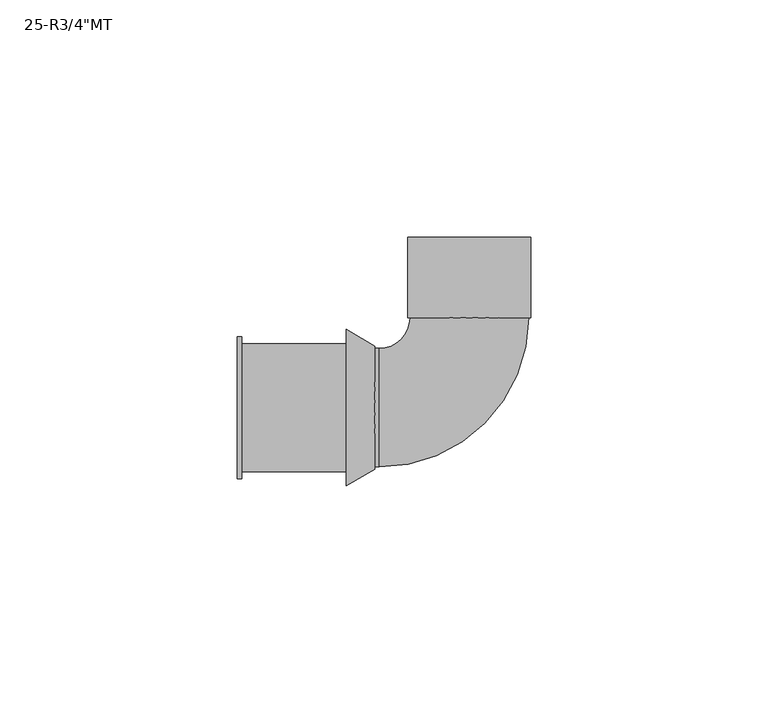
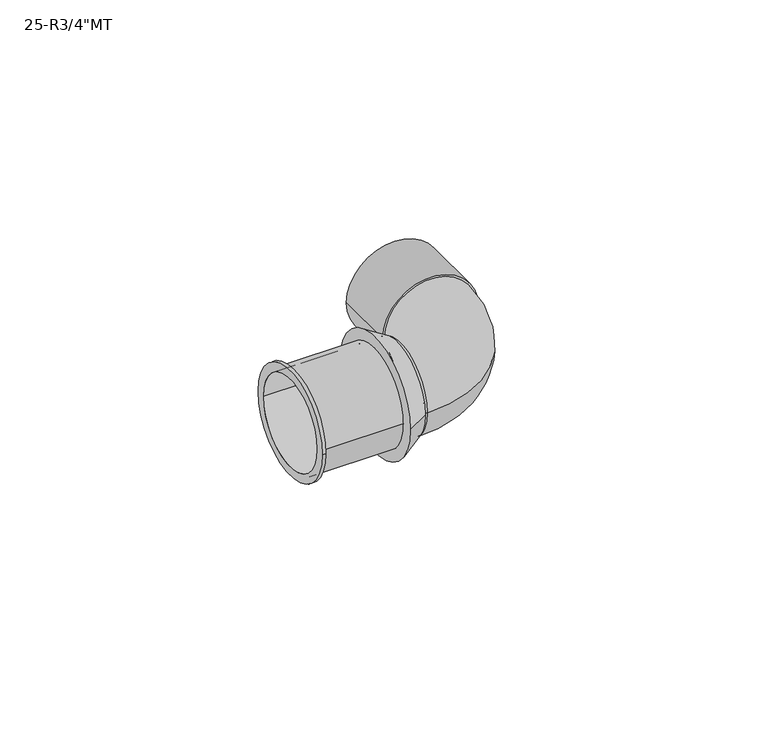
"""IFC4 building model written with IfcOpenShell, lengths in millimetres: pipe fitting geometry."""

from ifc_helpers import new_model, si_unit, point, frame, origin, origin_2d, place, context, project, spatial, polyline, circle_curve, ellipse_curve, trimmed, segment, composite_curve, outline, extrude, source, transform, mapped, element, save
from ifc_brep_helpers import plane_surface, cylinder_surface, revolved_surface, advanced_brep


def pipe_fitting_828af438(model_context):
    return source(origin(), model_context, "Body", "SolidModel", [
        advanced_brep(
        [(12.5, 19.0, 0.0), (-12.5, 19.0, 0.0), (-19.0, 12.5, 0.0), (-19.0, -12.5, 0.0), (-20.0, -12.5, 0.0), (-20.0, 12.5, 0.0)],
        [
            (0, 1, circle_curve(frame((0.0, 19.0, 0.0), z_axis=(0.0, 1.0, 0.0), x_axis=(-1.0, 0.0, 0.0)), 12.5)),
            (1, 0, circle_curve(frame((0.0, 19.0, 0.0), z_axis=(0.0, 1.0, 0.0), x_axis=(-1.0, 0.0, 0.0)), 12.5)),
            (1, 2, circle_curve(frame((-19.0, 19.0, 0.0), z_axis=(0.0, 0.0, -1.0), x_axis=(0.0, -1.0, 0.0)), 6.5)),
            (2, 3, circle_curve(frame((-19.0, 0.0, 0.0), z_axis=(1.0, 0.0, 0.0), x_axis=(0.0, 1.0, 0.0)), 12.5)),
            (3, 0, circle_curve(frame((-19.0, 19.0, 0.0), z_axis=(0.0, 0.0, 1.0), x_axis=(0.0, -1.0, 0.0)), 31.5)),
            (3, 2, circle_curve(frame((-19.0, 0.0, 0.0), z_axis=(1.0, 0.0, 0.0), x_axis=(0.0, 1.0, 0.0)), 12.5)),
            (4, 5, circle_curve(frame((-20.0, 0.0, 0.0), z_axis=(-1.0, 0.0, 0.0), x_axis=(0.0, 1.0, 0.0)), 12.5)),
            (5, 4, circle_curve(frame((-20.0, 0.0, 0.0), z_axis=(-1.0, 0.0, 0.0), x_axis=(0.0, 1.0, 0.0)), 12.5)),
            (4, 3),
            (2, 5),
        ],
        [
            plane_surface(frame((0.0, 19.0, 0.0), z_axis=(0.0, 1.0, 0.0), x_axis=(0.0, 0.0, 1.0))),
            revolved_surface(trimmed(ellipse_curve(frame((-19.0, 0.0, 0.0), z_axis=(-1.0, 0.0, 0.0), x_axis=(0.0, 1.0, 0.0)), 12.5, 12.5), [point((-19.0, -12.5, 0.0))], [point((-19.0, 12.5, 0.0))], True, "CARTESIAN"), (-19.0, 19.0, 0.0), (0.0, 0.0, 1.0)),
            revolved_surface(trimmed(ellipse_curve(frame((-19.0, 0.0, 0.0), z_axis=(-1.0, 0.0, 0.0), x_axis=(0.0, 1.0, 0.0)), 12.5, 12.5), [point((-19.0, 12.5, 0.0))], [point((-19.0, -12.5, 0.0))], True, "CARTESIAN"), (-19.0, 19.0, 0.0), (0.0, 0.0, 1.0)),
            plane_surface(frame((-20.0, 0.0, 0.0), z_axis=(-1.0, 0.0, 0.0), x_axis=(0.0, 0.0, 1.0))),
            cylinder_surface(frame((-20.0, 0.0, 0.0), z_axis=(-1.0, 0.0, 0.0), x_axis=(0.0, 1.0, 0.0)), 12.5),
        ],
        [
            (0, [[1, 2]]),
            (1, [[-2, 3, 4, 5]]),
            (2, [[-1, -5, 6, -3]]),
            (3, [[7, 8]]),
            (4, [[-7, 9, -4, 10]]),
            (4, [[-8, -10, -6, -9]]),
        ],
    ),
        extrude(outline(composite_curve([segment(trimmed(circle_curve(origin_2d(), 13.0), [point((0.0, -13.0))], [point((0.0, 13.0))], False, "CARTESIAN"), True, "CONTINUOUS"), segment(trimmed(circle_curve(origin_2d(), 13.0), [point((0.0, 13.0))], [point((0.0, -13.0))], False, "CARTESIAN"), True, "CONTINUOUS")], self_intersect=False), holes=[composite_curve([segment(trimmed(circle_curve(origin_2d(), 10.0), [point((0.0, -10.0))], [point((0.0, 10.0))], True, "CARTESIAN"), True, "CONTINUOUS"), segment(trimmed(circle_curve(origin_2d(), 10.0), [point((0.0, 10.0))], [point((0.0, -10.0))], True, "CARTESIAN"), True, "CONTINUOUS")], self_intersect=False)]), frame((0.0, 19.0, 0.0), z_axis=(0.0, 1.0, 0.0), x_axis=(0.0, 0.0, 1.0)), (0.0, 0.0, 1.0), 17.0),
        advanced_brep(
        [(-20.0, -13.0, 0.0), (-20.0, 13.0, 0.0), (-20.0, 12.5, 0.0), (-20.0, -12.5, 0.0), (-26.0, -16.5, 0.0), (-26.0, 16.5, 0.0), (-26.0, -12.5, 0.0), (-26.0, 12.5, 0.0)],
        [
            (0, 1, circle_curve(frame((-20.0, 0.0, 0.0), z_axis=(1.0, 0.0, 0.0), x_axis=(0.0, -1.0, 0.0)), 13.0)),
            (1, 0, circle_curve(frame((-20.0, 0.0, 0.0), z_axis=(1.0, 0.0, 0.0), x_axis=(0.0, 1.0, 0.0)), 13.0)),
            (2, 3, circle_curve(frame((-20.0, 0.0, 0.0), z_axis=(-1.0, 0.0, 0.0), x_axis=(0.0, 1.0, 0.0)), 12.5)),
            (3, 2, circle_curve(frame((-20.0, 0.0, 0.0), z_axis=(-1.0, 0.0, 0.0), x_axis=(0.0, 1.0, 0.0)), 12.5)),
            (4, 5, circle_curve(frame((-26.0, 0.0, 0.0), z_axis=(-1.0, 0.0, 0.0), x_axis=(0.0, 1.0, 0.0)), 16.5)),
            (5, 4, circle_curve(frame((-26.0, 0.0, 0.0), z_axis=(-1.0, 0.0, 0.0), x_axis=(0.0, -1.0, 0.0)), 16.5)),
            (6, 7, circle_curve(frame((-26.0, 0.0, 0.0), z_axis=(1.0, 0.0, 0.0), x_axis=(0.0, 1.0, 0.0)), 12.5)),
            (7, 6, circle_curve(frame((-26.0, 0.0, 0.0), z_axis=(1.0, 0.0, 0.0), x_axis=(0.0, 1.0, 0.0)), 12.5)),
            (0, 4),
            (5, 1),
            (2, 7),
            (6, 3),
        ],
        [
            plane_surface(frame((-20.0, 0.0, 0.0), z_axis=(1.0, 0.0, 0.0), x_axis=(0.0, 0.0, -1.0))),
            plane_surface(frame((-26.0, 0.0, 0.0), z_axis=(-1.0, 0.0, 0.0), x_axis=(0.0, 0.0, -1.0))),
            revolved_surface(polyline([(-20.0, -13.000000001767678, 0.0), (-26.0, -16.5, 0.0)]), (2.2857143, 0.0, 0.0), (-1.0, 0.0, 0.0)),
            revolved_surface(polyline([(-20.0, 13.000000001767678, 0.0), (-26.0, 16.5, 0.0)]), (2.2857143, 0.0, 0.0), (-1.0, 0.0, 0.0)),
            revolved_surface(polyline([(-20.0, 12.5, 0.0), (-26.0, 12.5, 0.0)]), (-26.0, 0.0, 0.0), (1.0, 0.0, 0.0)),
        ],
        [
            (0, [[1, 2], [3, 4]]),
            (1, [[5, 6], [7, 8]]),
            (2, [[-1, 9, -6, 10]]),
            (3, [[-2, -10, -5, -9]]),
            (4, [[11, -7, 12, -3]]),
            (4, [[-11, -4, -12, -8]]),
        ],
    ),
        advanced_brep(
        [(-49.0, -15.0, 0.0), (-49.0, 15.0, 0.0), (-49.0, -12.5, 0.0), (-49.0, 12.5, 0.0), (-26.0, -13.5, 0.0), (-26.0, 13.5, 0.0), (-26.0, -12.5, 0.0), (-26.0, 12.5, 0.0), (-48.0, 13.5, 0.0), (-48.0, -13.5, 0.0), (-48.0, -15.0, 0.0), (-48.0, 15.0, 0.0)],
        [
            (0, 1, circle_curve(frame((-49.0, 0.0, 0.0), z_axis=(-1.0, 0.0, 0.0), x_axis=(0.0, 1.0, 0.0)), 15.0)),
            (1, 0, circle_curve(frame((-49.0, 0.0, 0.0), z_axis=(-1.0, 0.0, 0.0), x_axis=(0.0, 1.0, 0.0)), 15.0)),
            (2, 3, circle_curve(frame((-49.0, 0.0, 0.0), z_axis=(1.0, 0.0, 0.0), x_axis=(0.0, 1.0, 0.0)), 12.5)),
            (3, 2, circle_curve(frame((-49.0, 0.0, 0.0), z_axis=(1.0, 0.0, 0.0), x_axis=(0.0, 1.0, 0.0)), 12.5)),
            (4, 5, circle_curve(frame((-26.0, 0.0, 0.0), z_axis=(1.0, 0.0, 0.0), x_axis=(0.0, 1.0, 0.0)), 13.5)),
            (5, 4, circle_curve(frame((-26.0, 0.0, 0.0), z_axis=(1.0, 0.0, 0.0), x_axis=(0.0, 1.0, 0.0)), 13.5)),
            (6, 7, circle_curve(frame((-26.0, 0.0, 0.0), z_axis=(-1.0, 0.0, 0.0), x_axis=(0.0, 1.0, 0.0)), 12.5)),
            (7, 6, circle_curve(frame((-26.0, 0.0, 0.0), z_axis=(-1.0, 0.0, 0.0), x_axis=(0.0, 1.0, 0.0)), 12.5)),
            (2, 6),
            (7, 3),
            (5, 8),
            (8, 9, circle_curve(frame((-48.0, 0.0, 0.0), z_axis=(1.0, 0.0, 0.0), x_axis=(0.0, 1.0, 0.0)), 13.5)),
            (9, 4),
            (9, 8, circle_curve(frame((-48.0, 0.0, 0.0), z_axis=(1.0, 0.0, 0.0), x_axis=(0.0, 1.0, 0.0)), 13.5)),
            (10, 11, circle_curve(frame((-48.0, 0.0, 0.0), z_axis=(1.0, 0.0, 0.0), x_axis=(0.0, 1.0, 0.0)), 15.0)),
            (11, 10, circle_curve(frame((-48.0, 0.0, 0.0), z_axis=(1.0, 0.0, 0.0), x_axis=(0.0, 1.0, 0.0)), 15.0)),
            (0, 10),
            (11, 1),
        ],
        [
            plane_surface(frame((-49.0, 0.0, 0.0), z_axis=(-1.0, 0.0, 0.0), x_axis=(0.0, 0.0, 1.0))),
            plane_surface(frame((-26.0, 0.0, 0.0), z_axis=(1.0, 0.0, 0.0), x_axis=(0.0, 0.0, 1.0))),
            revolved_surface(polyline([(-26.0, 12.5, 0.0), (-49.0, 12.5, 0.0)]), (-49.0, 0.0, 0.0), (1.0, 0.0, 0.0)),
            cylinder_surface(frame((-49.0, 0.0, 0.0), z_axis=(-1.0, 0.0, 0.0), x_axis=(0.0, 1.0, 0.0)), 13.5),
            plane_surface(frame((-48.0, 0.0, 0.0), z_axis=(1.0, 0.0, 0.0), x_axis=(0.0, 0.0, 1.0))),
            cylinder_surface(frame((-49.0, 0.0, 0.0), z_axis=(-1.0, 0.0, 0.0), x_axis=(0.0, 1.0, 0.0)), 15.0),
        ],
        [
            (0, [[1, 2], [3, 4]]),
            (1, [[5, 6], [7, 8]]),
            (2, [[-3, 9, -8, 10]]),
            (2, [[-4, -10, -7, -9]]),
            (3, [[-6, 11, 12, 13]]),
            (3, [[-5, -13, 14, -11]]),
            (4, [[15, 16], [-12, -14]]),
            (5, [[-1, 17, -16, 18]]),
            (5, [[-2, -18, -15, -17]]),
        ],
    ),
    ])


if __name__ == "__main__":
    model = new_model("IFC4")
    model_context = context("Model", 3, world=origin())
    ifc_project = project(units=[si_unit("LENGTHUNIT", "METRE", prefix="MILLI")], contexts=[model_context])
    site = spatial("IfcSite", under=ifc_project)
    building = spatial("IfcBuilding", under=site)
    placement = place(None, origin())
    pipe_fitting_shape = pipe_fitting_828af438(model_context)
    element("IfcPipeFitting", 1, ObjectType="SuperPipe_ElbowAdapterMT_MAX_R : 25-R3/4\"MT", at=placement, inside=building, context=model_context, shape_type="MappedRepresentation", body=[
        mapped(pipe_fitting_shape, transform((0.0, 0.0, 0.0), x_axis=(1.0, 0.0, 0.0), y_axis=(0.0, 1.0, 0.0), z_axis=(0.0, 0.0, 1.0))),
    ])
    save(model, "model.ifc")
